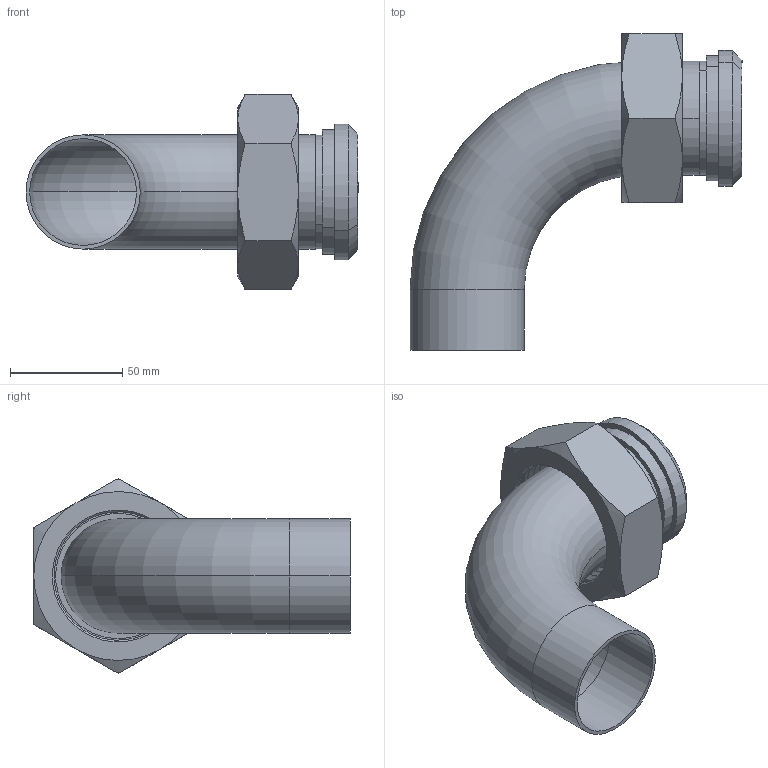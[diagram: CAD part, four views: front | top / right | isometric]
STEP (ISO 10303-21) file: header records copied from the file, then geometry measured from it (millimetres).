
FILE_DESCRIPTION (( 'STEP AP203' ), '1' );
FILE_NAME ('E2F2.0.STEP', '2018-05-02T14:47:25', ( 'vneprd' ), ( 'Microsoft' ), 'SwSTEP 2.0', 'SolidWorks 2014', '' );
FILE_SCHEMA (( 'CONFIG_CONTROL_DESIGN' ));
Length unit declared in the file: inch
Products named in the file (4): 13H2.0; E2S2.0; E2F2.0; 14PR2.0
Assembly tree (3 placements, depth 2):
  E2F2.0
    E2S2.0
    14PR2.0
    13H2.0
Bounding box: 147.68 x 140.76 x 86.76 mm (x, y, z)
Volume: 101150.7 mm3; surface area: 82361.2 mm2
Topology: 3 solids, 3 shells, 88 faces, 215 edges, 136 vertices
Faces by surface type: cylinder 31, plane 29, cone 20, torus 4, bspline 4
Entity records: 6217 total; most frequent: CARTESIAN_POINT 3806, ORIENTED_EDGE 430, DIRECTION 416, EDGE_CURVE 215, AXIS2_PLACEMENT_3D 172, VERTEX_POINT 136, EDGE_LOOP 97, FACE_OUTER_BOUND 88
